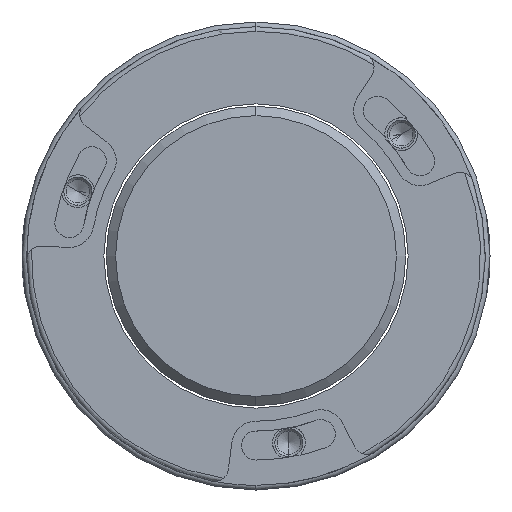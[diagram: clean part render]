
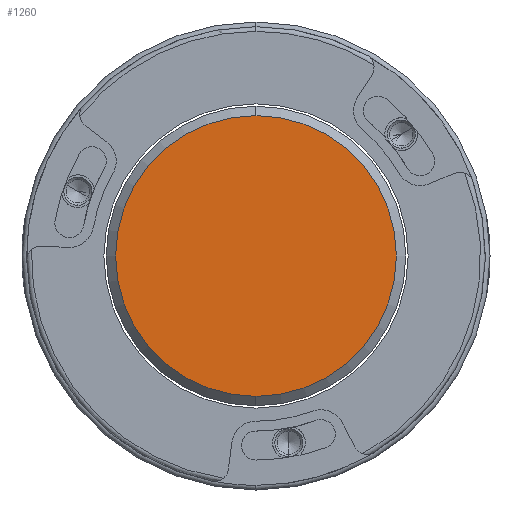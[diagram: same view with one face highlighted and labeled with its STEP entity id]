
A CAD part, left-side view. The second image highlights one B-rep face of the part: STEP entity #1260.
In plain terms, the highlighted planar face has unit normal (-1, 0, 0).
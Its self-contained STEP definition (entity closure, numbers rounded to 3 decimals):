
#153 = AXIS2_PLACEMENT_3D ( 'NONE', #1647, #2637, #1106 ) ;
#182 = ORIENTED_EDGE ( 'NONE', *, *, #6729, .T. ) ;
#477 = CARTESIAN_POINT ( 'NONE',  ( -10., 0., 15. ) ) ;
#666 = CARTESIAN_POINT ( 'NONE',  ( -10., 0., 0. ) ) ;
#1100 = EDGE_CURVE ( 'NONE', #2891, #5978, #1394, .T. ) ;
#1106 = DIRECTION ( 'NONE',  ( 0., 0., 1. ) ) ;
#1260 = ADVANCED_FACE ( 'NONE', ( #5882 ), #1754, .T. ) ;
#1394 = CIRCLE ( 'NONE', #153, 15. ) ;
#1647 = CARTESIAN_POINT ( 'NONE',  ( -10., 0., 0. ) ) ;
#1754 = PLANE ( 'NONE',  #2496 ) ;
#2496 = AXIS2_PLACEMENT_3D ( 'NONE', #666, #5997, #2815 ) ;
#2637 = DIRECTION ( 'NONE',  ( -1., 0., 0. ) ) ;
#2668 = CARTESIAN_POINT ( 'NONE',  ( -10., 0., -15. ) ) ;
#2815 = DIRECTION ( 'NONE',  ( 0., 0., 1. ) ) ;
#2891 = VERTEX_POINT ( 'NONE', #2668 ) ;
#3720 = AXIS2_PLACEMENT_3D ( 'NONE', #5203, #4600, #4126 ) ;
#4126 = DIRECTION ( 'NONE',  ( 0., 0., 1. ) ) ;
#4530 = ORIENTED_EDGE ( 'NONE', *, *, #1100, .T. ) ;
#4600 = DIRECTION ( 'NONE',  ( -1., 0., 0. ) ) ;
#4627 = CIRCLE ( 'NONE', #3720, 15. ) ;
#5203 = CARTESIAN_POINT ( 'NONE',  ( -10., 0., 0. ) ) ;
#5882 = FACE_OUTER_BOUND ( 'NONE', #6625, .T. ) ;
#5978 = VERTEX_POINT ( 'NONE', #477 ) ;
#5997 = DIRECTION ( 'NONE',  ( -1., 0., 0. ) ) ;
#6625 = EDGE_LOOP ( 'NONE', ( #4530, #182 ) ) ;
#6729 = EDGE_CURVE ( 'NONE', #5978, #2891, #4627, .T. ) ;
